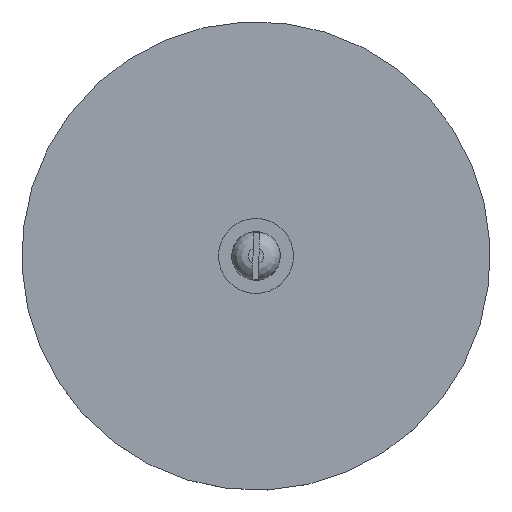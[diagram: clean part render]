
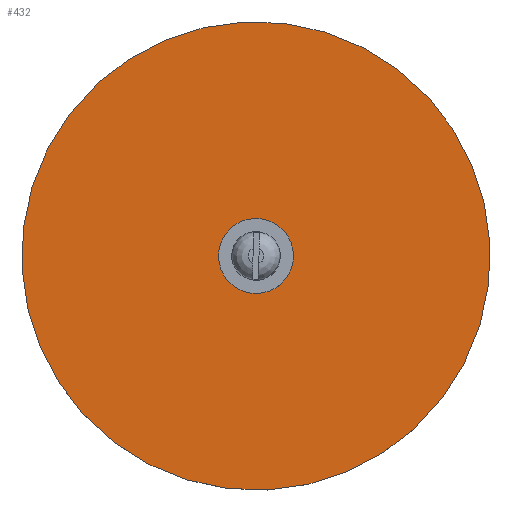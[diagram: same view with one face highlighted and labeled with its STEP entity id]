
A CAD part, top view. The second image highlights one B-rep face of the part: STEP entity #432.
In plain terms, the highlighted planar face has unit normal (0, 0, 1).
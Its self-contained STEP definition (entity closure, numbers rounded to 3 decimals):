
#58=FACE_BOUND('',#130,.T.);
#68=PLANE('',#562);
#97=FACE_OUTER_BOUND('',#129,.T.);
#129=EDGE_LOOP('',(#346));
#130=EDGE_LOOP('',(#347));
#194=CIRCLE('',#559,0.8);
#195=CIRCLE('',#561,12.5);
#227=VERTEX_POINT('',#811);
#228=VERTEX_POINT('',#815);
#268=EDGE_CURVE('',#227,#227,#194,.T.);
#270=EDGE_CURVE('',#228,#228,#195,.T.);
#346=ORIENTED_EDGE('',*,*,#270,.T.);
#347=ORIENTED_EDGE('',*,*,#268,.T.);
#432=ADVANCED_FACE('',(#97,#58),#68,.T.);
#559=AXIS2_PLACEMENT_3D('',#812,#664,#665);
#561=AXIS2_PLACEMENT_3D('',#816,#669,#670);
#562=AXIS2_PLACEMENT_3D('',#818,#672,#673);
#664=DIRECTION('center_axis',(0.,0.,-1.));
#665=DIRECTION('ref_axis',(-1.,0.,0.));
#669=DIRECTION('center_axis',(0.,0.,1.));
#670=DIRECTION('ref_axis',(1.,0.,0.));
#672=DIRECTION('center_axis',(0.,0.,1.));
#673=DIRECTION('ref_axis',(1.,0.,0.));
#811=CARTESIAN_POINT('',(0.8,0.,0.4));
#812=CARTESIAN_POINT('Origin',(0.,0.,0.4));
#815=CARTESIAN_POINT('',(-12.5,0.,0.4));
#816=CARTESIAN_POINT('Origin',(0.,0.,0.4));
#818=CARTESIAN_POINT('Origin',(0.,0.,0.4));
